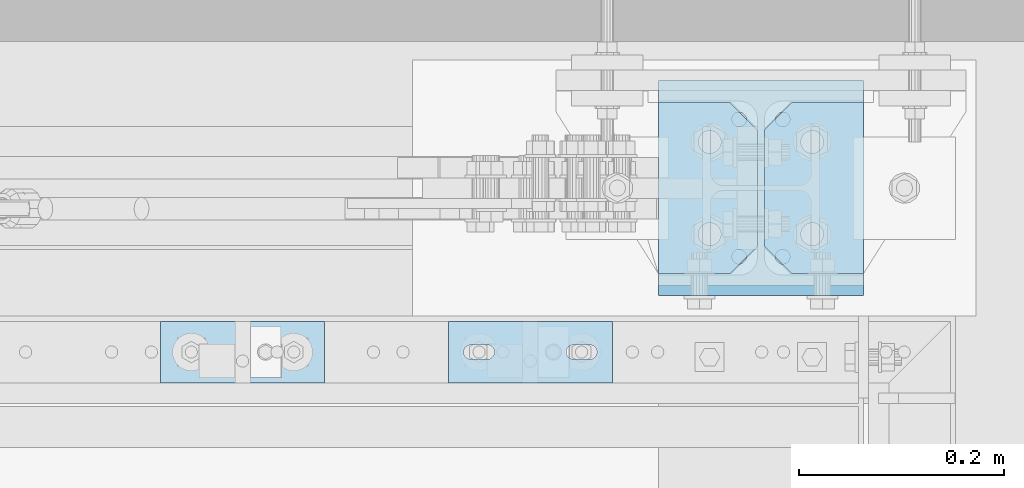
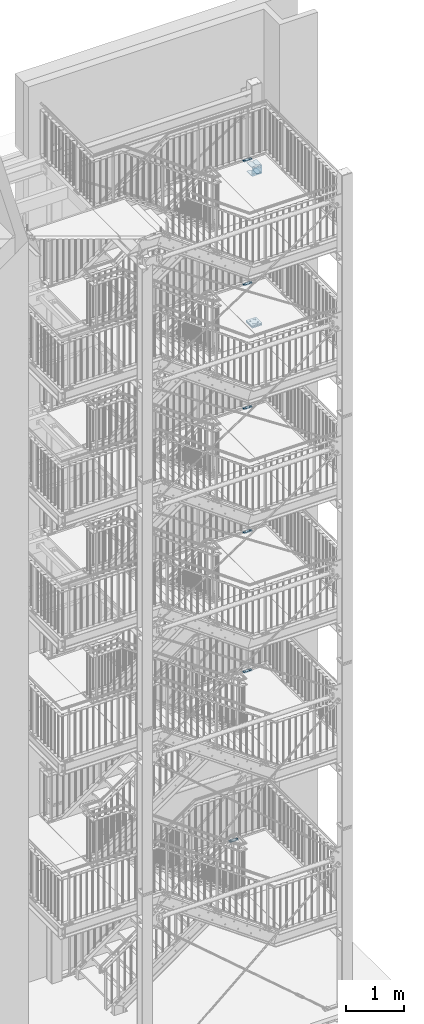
# One storey, part 213 of 825: 13 plates, 44 openings.
"""IFC2X3 building model written with IfcOpenShell, lengths in millimetres."""

from ifc_helpers import new_model, entity, si_unit, converted_unit, point, frame, frame_2d, origin, origin_with_axes, origin_2d_with_axis, place, context, project, spatial, polyline, circle_curve, line_curve, trimmed, segment, composite_curve, circle, outline, extrude, material, layer, layer_set, element, save


model = new_model("IFC2X3")

# Units and contexts
model_context = context("Model", 3, precision=1e-09, world=origin_with_axes())
ifc_project = project(units=[si_unit("LENGTHUNIT", "METRE", prefix="MILLI"), si_unit("AREAUNIT", "SQUARE_METRE"), si_unit("VOLUMEUNIT", "CUBIC_METRE"), converted_unit("PLANEANGLEUNIT", "DEGREE", entity("IfcPlaneAngleMeasure", 0.01745329), si_unit("PLANEANGLEUNIT", "RADIAN"), dimensions=[0, 0, 0, 0, 0, 0, 0])], contexts=[model_context])

# Site, building, storey
site_placement = place(None, origin_with_axes())
site = spatial("IfcSite", under=ifc_project, at=site_placement, Name="Cnopf'sche Kinderklinik", CompositionType="ELEMENT")
building_placement = place(site_placement, origin_with_axes())
building = spatial("IfcBuilding", under=site, at=building_placement, Name="Struktur 1", CompositionType="ELEMENT")
storey_placement = place(building_placement, origin_with_axes())
storey = spatial("IfcBuildingStorey", under=building, at=storey_placement, Name="Default Storey", CompositionType="ELEMENT", Elevation=0.0)

# Plate, openings
ifc_material = material(Name="S235JR")
ifc_layer_1 = layer(ifc_material, 20.0)
ifc_layer_set_1 = layer_set([ifc_layer_1], Name="S235JR")
plate_1_placement = place(None, frame((8440.944225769, 7386.736971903, 2181.0526312), z_axis=(0.0, 0.0, 1.0), x_axis=(-1.0, 0.0, 0.0)))
plate_1 = element("IfcPlate", 1, at=plate_1_placement, inside=storey, material=ifc_layer_set_1, Name="Plate#503", ObjectType="Plate#503", context=model_context, shape_type="SweptSolid", body=[
    extrude(outline(polyline([(0.0, 0.0), (160.0, 0.0), (160.0, 60.0), (0.0, 60.0), (0.0, 0.0)])), origin_with_axes(), (0.0, 0.0, 1.0), 20.0),
])
opening_1_placement = place(plate_1_placement, frame((38.0, 37.001, 20.5), z_axis=(0.0, 0.0, 1.0), x_axis=(-1.0, 0.0, 0.0)))
element("IfcOpeningElement", 2, at=opening_1_placement, cuts=plate_1, ObjectType="Opening", context=model_context, shape_type="SweptSolid", body=[
    extrude(outline(composite_curve([segment(trimmed(line_curve((0.0, 0.0), (1.0, 0.0), 16.0), [point((0.0, 0.0))], [point((16.0, 0.0))], True, "CARTESIAN"), True, "CONTINUOUS"), segment(trimmed(circle_curve(frame_2d((16.0, 7.001), x_axis=(1.0, 0.0)), 7.001), [point((16.0, 0.0))], [point((16.0, 14.002))], True, "CARTESIAN"), True, "CONTINUOUS"), segment(trimmed(line_curve((16.0, 14.002), (-1.0, 0.0), 16.0), [point((16.0, 14.002))], [point((0.0, 14.002))], True, "CARTESIAN"), True, "CONTINUOUS"), segment(trimmed(circle_curve(frame_2d((0.0, 7.001), x_axis=(1.0, 0.0)), 7.001), [point((0.0, 14.002))], [point((0.0, 0.0))], True, "CARTESIAN"), True, "CONTINUOUS")], self_intersect=False)), origin(), (0.0, 0.0, -1.0), 21.0),
])
opening_2_placement = place(plate_1_placement, frame((138.0, 37.001, 20.5), z_axis=(0.0, 0.0, 1.0), x_axis=(-1.0, 0.0, 0.0)))
element("IfcOpeningElement", 3, at=opening_2_placement, cuts=plate_1, ObjectType="Opening", context=model_context, shape_type="SweptSolid", body=[
    extrude(outline(composite_curve([segment(trimmed(line_curve((0.0, 0.0), (1.0, 0.0), 16.0), [point((0.0, 0.0))], [point((16.0, 0.0))], True, "CARTESIAN"), True, "CONTINUOUS"), segment(trimmed(circle_curve(frame_2d((16.0, 7.001), x_axis=(1.0, 0.0)), 7.001), [point((16.0, 0.0))], [point((16.0, 14.002))], True, "CARTESIAN"), True, "CONTINUOUS"), segment(trimmed(line_curve((16.0, 14.002), (-1.0, 0.0), 16.0), [point((16.0, 14.002))], [point((0.0, 14.002))], True, "CARTESIAN"), True, "CONTINUOUS"), segment(trimmed(circle_curve(frame_2d((0.0, 7.001), x_axis=(1.0, 0.0)), 7.001), [point((0.0, 14.002))], [point((0.0, 0.0))], True, "CARTESIAN"), True, "CONTINUOUS")], self_intersect=False)), origin(), (0.0, 0.0, -1.0), 21.0),
])

plate_2_placement = place(None, frame((8721.713974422, 7386.736971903, 5674.8947367), z_axis=(0.0, 0.0, 1.0), x_axis=(-1.0, 0.0, 0.0)))
plate_2 = element("IfcPlate", 4, at=plate_2_placement, inside=storey, material=ifc_layer_set_1, Name="Plate#504", ObjectType="Plate#504", context=model_context, shape_type="SweptSolid", body=[
    extrude(outline(polyline([(0.0, 0.0), (160.0, 0.0), (160.0, 60.0), (0.0, 60.0), (0.0, 0.0)])), origin_with_axes(), (0.0, 0.0, 1.0), 20.0),
])
opening_3_placement = place(plate_2_placement, frame((38.0, 37.001, 20.5), z_axis=(0.0, 0.0, 1.0), x_axis=(-1.0, 0.0, 0.0)))
element("IfcOpeningElement", 5, at=opening_3_placement, cuts=plate_2, ObjectType="Opening", context=model_context, shape_type="SweptSolid", body=[
    extrude(outline(composite_curve([segment(trimmed(line_curve((0.0, 0.0), (1.0, 0.0), 16.0), [point((0.0, 0.0))], [point((16.0, 0.0))], True, "CARTESIAN"), True, "CONTINUOUS"), segment(trimmed(circle_curve(frame_2d((16.0, 7.001), x_axis=(1.0, 0.0)), 7.001), [point((16.0, 0.0))], [point((16.0, 14.002))], True, "CARTESIAN"), True, "CONTINUOUS"), segment(trimmed(line_curve((16.0, 14.002), (-1.0, 0.0), 16.0), [point((16.0, 14.002))], [point((0.0, 14.002))], True, "CARTESIAN"), True, "CONTINUOUS"), segment(trimmed(circle_curve(frame_2d((0.0, 7.001), x_axis=(1.0, 0.0)), 7.001), [point((0.0, 14.002))], [point((0.0, 0.0))], True, "CARTESIAN"), True, "CONTINUOUS")], self_intersect=False)), origin(), (0.0, 0.0, -1.0), 21.0),
])
opening_4_placement = place(plate_2_placement, frame((138.0, 37.001, 20.5), z_axis=(0.0, 0.0, 1.0), x_axis=(-1.0, 0.0, 0.0)))
element("IfcOpeningElement", 6, at=opening_4_placement, cuts=plate_2, ObjectType="Opening", context=model_context, shape_type="SweptSolid", body=[
    extrude(outline(composite_curve([segment(trimmed(line_curve((0.0, 0.0), (1.0, 0.0), 16.0), [point((0.0, 0.0))], [point((16.0, 0.0))], True, "CARTESIAN"), True, "CONTINUOUS"), segment(trimmed(circle_curve(frame_2d((16.0, 7.001), x_axis=(1.0, 0.0)), 7.001), [point((16.0, 0.0))], [point((16.0, 14.002))], True, "CARTESIAN"), True, "CONTINUOUS"), segment(trimmed(line_curve((16.0, 14.002), (-1.0, 0.0), 16.0), [point((16.0, 14.002))], [point((0.0, 14.002))], True, "CARTESIAN"), True, "CONTINUOUS"), segment(trimmed(circle_curve(frame_2d((0.0, 7.001), x_axis=(1.0, 0.0)), 7.001), [point((0.0, 14.002))], [point((0.0, 0.0))], True, "CARTESIAN"), True, "CONTINUOUS")], self_intersect=False)), origin(), (0.0, 0.0, -1.0), 21.0),
])

plate_3_placement = place(None, frame((8721.713974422, 7386.736971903, 8636.0), z_axis=(0.0, 0.0, 1.0), x_axis=(-1.0, 0.0, 0.0)))
plate_3 = element("IfcPlate", 7, at=plate_3_placement, inside=storey, material=ifc_layer_set_1, Name="Plate#504", ObjectType="Plate#504", context=model_context, shape_type="SweptSolid", body=[
    extrude(outline(polyline([(0.0, 0.0), (160.0, 0.0), (160.0, 60.0), (0.0, 60.0), (0.0, 0.0)])), origin_with_axes(), (0.0, 0.0, 1.0), 20.0),
])
opening_5_placement = place(plate_3_placement, frame((38.0, 37.001, 20.5), z_axis=(0.0, 0.0, 1.0), x_axis=(-1.0, 0.0, 0.0)))
element("IfcOpeningElement", 8, at=opening_5_placement, cuts=plate_3, ObjectType="Opening", context=model_context, shape_type="SweptSolid", body=[
    extrude(outline(composite_curve([segment(trimmed(line_curve((0.0, 0.0), (1.0, 0.0), 16.0), [point((0.0, 0.0))], [point((16.0, 0.0))], True, "CARTESIAN"), True, "CONTINUOUS"), segment(trimmed(circle_curve(frame_2d((16.0, 7.001), x_axis=(1.0, 0.0)), 7.001), [point((16.0, 0.0))], [point((16.0, 14.002))], True, "CARTESIAN"), True, "CONTINUOUS"), segment(trimmed(line_curve((16.0, 14.002), (-1.0, 0.0), 16.0), [point((16.0, 14.002))], [point((0.0, 14.002))], True, "CARTESIAN"), True, "CONTINUOUS"), segment(trimmed(circle_curve(frame_2d((0.0, 7.001), x_axis=(1.0, 0.0)), 7.001), [point((0.0, 14.002))], [point((0.0, 0.0))], True, "CARTESIAN"), True, "CONTINUOUS")], self_intersect=False)), origin(), (0.0, 0.0, -1.0), 21.0),
])
opening_6_placement = place(plate_3_placement, frame((138.0, 37.001, 20.5), z_axis=(0.0, 0.0, 1.0), x_axis=(-1.0, 0.0, 0.0)))
element("IfcOpeningElement", 9, at=opening_6_placement, cuts=plate_3, ObjectType="Opening", context=model_context, shape_type="SweptSolid", body=[
    extrude(outline(composite_curve([segment(trimmed(line_curve((0.0, 0.0), (1.0, 0.0), 16.0), [point((0.0, 0.0))], [point((16.0, 0.0))], True, "CARTESIAN"), True, "CONTINUOUS"), segment(trimmed(circle_curve(frame_2d((16.0, 7.001), x_axis=(1.0, 0.0)), 7.001), [point((16.0, 0.0))], [point((16.0, 14.002))], True, "CARTESIAN"), True, "CONTINUOUS"), segment(trimmed(line_curve((16.0, 14.002), (-1.0, 0.0), 16.0), [point((16.0, 14.002))], [point((0.0, 14.002))], True, "CARTESIAN"), True, "CONTINUOUS"), segment(trimmed(circle_curve(frame_2d((0.0, 7.001), x_axis=(1.0, 0.0)), 7.001), [point((0.0, 14.002))], [point((0.0, 0.0))], True, "CARTESIAN"), True, "CONTINUOUS")], self_intersect=False)), origin(), (0.0, 0.0, -1.0), 21.0),
])

plate_4_placement = place(None, frame((8721.713974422, 7386.736971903, 11265.5000003), z_axis=(0.0, 0.0, 1.0), x_axis=(-1.0, 0.0, 0.0)))
plate_4 = element("IfcPlate", 10, at=plate_4_placement, inside=storey, material=ifc_layer_set_1, Name="Plate#504", ObjectType="Plate#504", context=model_context, shape_type="SweptSolid", body=[
    extrude(outline(polyline([(0.0, 0.0), (160.0, 0.0), (160.0, 60.0), (0.0, 60.0), (0.0, 0.0)])), origin_with_axes(), (0.0, 0.0, 1.0), 20.0),
])
opening_7_placement = place(plate_4_placement, frame((38.0, 37.001, 20.5), z_axis=(0.0, 0.0, 1.0), x_axis=(-1.0, 0.0, 0.0)))
element("IfcOpeningElement", 11, at=opening_7_placement, cuts=plate_4, ObjectType="Opening", context=model_context, shape_type="SweptSolid", body=[
    extrude(outline(composite_curve([segment(trimmed(line_curve((0.0, 0.0), (1.0, 0.0), 16.0), [point((0.0, 0.0))], [point((16.0, 0.0))], True, "CARTESIAN"), True, "CONTINUOUS"), segment(trimmed(circle_curve(frame_2d((16.0, 7.001), x_axis=(1.0, 0.0)), 7.001), [point((16.0, 0.0))], [point((16.0, 14.002))], True, "CARTESIAN"), True, "CONTINUOUS"), segment(trimmed(line_curve((16.0, 14.002), (-1.0, 0.0), 16.0), [point((16.0, 14.002))], [point((0.0, 14.002))], True, "CARTESIAN"), True, "CONTINUOUS"), segment(trimmed(circle_curve(frame_2d((0.0, 7.001), x_axis=(1.0, 0.0)), 7.001), [point((0.0, 14.002))], [point((0.0, 0.0))], True, "CARTESIAN"), True, "CONTINUOUS")], self_intersect=False)), origin(), (0.0, 0.0, -1.0), 21.0),
])
opening_8_placement = place(plate_4_placement, frame((138.0, 37.001, 20.5), z_axis=(0.0, 0.0, 1.0), x_axis=(-1.0, 0.0, 0.0)))
element("IfcOpeningElement", 12, at=opening_8_placement, cuts=plate_4, ObjectType="Opening", context=model_context, shape_type="SweptSolid", body=[
    extrude(outline(composite_curve([segment(trimmed(line_curve((0.0, 0.0), (1.0, 0.0), 16.0), [point((0.0, 0.0))], [point((16.0, 0.0))], True, "CARTESIAN"), True, "CONTINUOUS"), segment(trimmed(circle_curve(frame_2d((16.0, 7.001), x_axis=(1.0, 0.0)), 7.001), [point((16.0, 0.0))], [point((16.0, 14.002))], True, "CARTESIAN"), True, "CONTINUOUS"), segment(trimmed(line_curve((16.0, 14.002), (-1.0, 0.0), 16.0), [point((16.0, 14.002))], [point((0.0, 14.002))], True, "CARTESIAN"), True, "CONTINUOUS"), segment(trimmed(circle_curve(frame_2d((0.0, 7.001), x_axis=(1.0, 0.0)), 7.001), [point((0.0, 14.002))], [point((0.0, 0.0))], True, "CARTESIAN"), True, "CONTINUOUS")], self_intersect=False)), origin(), (0.0, 0.0, -1.0), 21.0),
])

plate_5_placement = place(None, frame((8721.713974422, 7386.736971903, 13896.5000001), z_axis=(0.0, 0.0, 1.0), x_axis=(-1.0, 0.0, 0.0)))
plate_5 = element("IfcPlate", 13, at=plate_5_placement, inside=storey, material=ifc_layer_set_1, Name="Plate#504", ObjectType="Plate#504", context=model_context, shape_type="SweptSolid", body=[
    extrude(outline(polyline([(0.0, 0.0), (160.0, 0.0), (160.0, 60.0), (0.0, 60.0), (0.0, 0.0)])), origin_with_axes(), (0.0, 0.0, 1.0), 20.0),
])
opening_9_placement = place(plate_5_placement, frame((38.0, 37.001, 20.5), z_axis=(0.0, 0.0, 1.0), x_axis=(-1.0, 0.0, 0.0)))
element("IfcOpeningElement", 14, at=opening_9_placement, cuts=plate_5, ObjectType="Opening", context=model_context, shape_type="SweptSolid", body=[
    extrude(outline(composite_curve([segment(trimmed(line_curve((0.0, 0.0), (1.0, 0.0), 16.0), [point((0.0, 0.0))], [point((16.0, 0.0))], True, "CARTESIAN"), True, "CONTINUOUS"), segment(trimmed(circle_curve(frame_2d((16.0, 7.001), x_axis=(1.0, 0.0)), 7.001), [point((16.0, 0.0))], [point((16.0, 14.002))], True, "CARTESIAN"), True, "CONTINUOUS"), segment(trimmed(line_curve((16.0, 14.002), (-1.0, 0.0), 16.0), [point((16.0, 14.002))], [point((0.0, 14.002))], True, "CARTESIAN"), True, "CONTINUOUS"), segment(trimmed(circle_curve(frame_2d((0.0, 7.001), x_axis=(1.0, 0.0)), 7.001), [point((0.0, 14.002))], [point((0.0, 0.0))], True, "CARTESIAN"), True, "CONTINUOUS")], self_intersect=False)), origin(), (0.0, 0.0, -1.0), 21.0),
])
opening_10_placement = place(plate_5_placement, frame((138.0, 37.001, 20.5), z_axis=(0.0, 0.0, 1.0), x_axis=(-1.0, 0.0, 0.0)))
element("IfcOpeningElement", 15, at=opening_10_placement, cuts=plate_5, ObjectType="Opening", context=model_context, shape_type="SweptSolid", body=[
    extrude(outline(composite_curve([segment(trimmed(line_curve((0.0, 0.0), (1.0, 0.0), 16.0), [point((0.0, 0.0))], [point((16.0, 0.0))], True, "CARTESIAN"), True, "CONTINUOUS"), segment(trimmed(circle_curve(frame_2d((16.0, 7.001), x_axis=(1.0, 0.0)), 7.001), [point((16.0, 0.0))], [point((16.0, 14.002))], True, "CARTESIAN"), True, "CONTINUOUS"), segment(trimmed(line_curve((16.0, 14.002), (-1.0, 0.0), 16.0), [point((16.0, 14.002))], [point((0.0, 14.002))], True, "CARTESIAN"), True, "CONTINUOUS"), segment(trimmed(circle_curve(frame_2d((0.0, 7.001), x_axis=(1.0, 0.0)), 7.001), [point((0.0, 14.002))], [point((0.0, 0.0))], True, "CARTESIAN"), True, "CONTINUOUS")], self_intersect=False)), origin(), (0.0, 0.0, -1.0), 21.0),
])

plate_6_placement = place(None, frame((8721.713974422, 7386.736971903, 16524.0000003), z_axis=(0.0, 0.0, 1.0), x_axis=(-1.0, 0.0, 0.0)))
plate_6 = element("IfcPlate", 16, at=plate_6_placement, inside=storey, material=ifc_layer_set_1, Name="Plate#504", ObjectType="Plate#504", context=model_context, shape_type="SweptSolid", body=[
    extrude(outline(polyline([(0.0, 0.0), (160.0, 0.0), (160.0, 60.0), (0.0, 60.0), (0.0, 0.0)])), origin_with_axes(), (0.0, 0.0, 1.0), 20.0),
])
opening_11_placement = place(plate_6_placement, frame((38.0, 37.001, 20.5), z_axis=(0.0, 0.0, 1.0), x_axis=(-1.0, 0.0, 0.0)))
element("IfcOpeningElement", 17, at=opening_11_placement, cuts=plate_6, ObjectType="Opening", context=model_context, shape_type="SweptSolid", body=[
    extrude(outline(composite_curve([segment(trimmed(line_curve((0.0, 0.0), (1.0, 0.0), 16.0), [point((0.0, 0.0))], [point((16.0, 0.0))], True, "CARTESIAN"), True, "CONTINUOUS"), segment(trimmed(circle_curve(frame_2d((16.0, 7.001), x_axis=(1.0, 0.0)), 7.001), [point((16.0, 0.0))], [point((16.0, 14.002))], True, "CARTESIAN"), True, "CONTINUOUS"), segment(trimmed(line_curve((16.0, 14.002), (-1.0, 0.0), 16.0), [point((16.0, 14.002))], [point((0.0, 14.002))], True, "CARTESIAN"), True, "CONTINUOUS"), segment(trimmed(circle_curve(frame_2d((0.0, 7.001), x_axis=(1.0, 0.0)), 7.001), [point((0.0, 14.002))], [point((0.0, 0.0))], True, "CARTESIAN"), True, "CONTINUOUS")], self_intersect=False)), origin(), (0.0, 0.0, -1.0), 21.0),
])
opening_12_placement = place(plate_6_placement, frame((138.0, 37.001, 20.5), z_axis=(0.0, 0.0, 1.0), x_axis=(-1.0, 0.0, 0.0)))
element("IfcOpeningElement", 18, at=opening_12_placement, cuts=plate_6, ObjectType="Opening", context=model_context, shape_type="SweptSolid", body=[
    extrude(outline(composite_curve([segment(trimmed(line_curve((0.0, 0.0), (1.0, 0.0), 16.0), [point((0.0, 0.0))], [point((16.0, 0.0))], True, "CARTESIAN"), True, "CONTINUOUS"), segment(trimmed(circle_curve(frame_2d((16.0, 7.001), x_axis=(1.0, 0.0)), 7.001), [point((16.0, 0.0))], [point((16.0, 14.002))], True, "CARTESIAN"), True, "CONTINUOUS"), segment(trimmed(line_curve((16.0, 14.002), (-1.0, 0.0), 16.0), [point((16.0, 14.002))], [point((0.0, 14.002))], True, "CARTESIAN"), True, "CONTINUOUS"), segment(trimmed(circle_curve(frame_2d((0.0, 7.001), x_axis=(1.0, 0.0)), 7.001), [point((0.0, 14.002))], [point((0.0, 0.0))], True, "CARTESIAN"), True, "CONTINUOUS")], self_intersect=False)), origin(), (0.0, 0.0, -1.0), 21.0),
])

ifc_layer_2 = layer(ifc_material, 25.0)
ifc_layer_set_2 = layer_set([ifc_layer_2], Name="S235JR")
plate_7_placement = place(None, frame((8866.713402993, 7516.736971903, 12900.0), z_axis=(0.0, 0.0, -1.0), x_axis=(0.0, -1.0, 0.0)))
plate_7 = element("IfcPlate", 19, at=plate_7_placement, inside=storey, material=ifc_layer_set_2, Name="Endplate#1", ObjectType="Endplate#1", context=model_context, shape_type="SweptSolid", body=[
    extrude(outline(polyline([(-105.0, -100.0), (105.0, -100.0), (105.0, 100.0), (-105.0, 100.0), (-105.0, -100.0)])), origin_with_axes(), (0.0, 0.0, 1.0), 25.0),
])
opening_13_placement = place(plate_7_placement, frame((67.0, 21.25, -0.5), z_axis=(0.0, 0.0, 1.0), x_axis=(1.0, 0.0, 0.0)))
element("IfcOpeningElement", 20, at=opening_13_placement, cuts=plate_7, ObjectType="Opening", context=model_context, shape_type="SweptSolid", body=[
    extrude(circle(Radius=7.001, at=origin_2d_with_axis()), origin(), (0.0, 0.0, 1.0), 26.0),
])
opening_14_placement = place(plate_7_placement, frame((-67.0, 21.25, -0.5), z_axis=(0.0, 0.0, 1.0), x_axis=(1.0, 0.0, 0.0)))
element("IfcOpeningElement", 21, at=opening_14_placement, cuts=plate_7, ObjectType="Opening", context=model_context, shape_type="SweptSolid", body=[
    extrude(circle(Radius=7.001, at=origin_2d_with_axis()), origin(), (0.0, 0.0, 1.0), 26.0),
])
opening_15_placement = place(plate_7_placement, frame((-67.0, -21.25, -0.5), z_axis=(0.0, 0.0, 1.0), x_axis=(1.0, 0.0, 0.0)))
element("IfcOpeningElement", 22, at=opening_15_placement, cuts=plate_7, ObjectType="Opening", context=model_context, shape_type="SweptSolid", body=[
    extrude(circle(Radius=7.001, at=origin_2d_with_axis()), origin(), (0.0, 0.0, 1.0), 26.0),
])
opening_16_placement = place(plate_7_placement, frame((67.0, -21.25, -0.5), z_axis=(0.0, 0.0, 1.0), x_axis=(1.0, 0.0, 0.0)))
element("IfcOpeningElement", 23, at=opening_16_placement, cuts=plate_7, ObjectType="Opening", context=model_context, shape_type="SweptSolid", body=[
    extrude(circle(Radius=7.001, at=origin_2d_with_axis()), origin(), (0.0, 0.0, 1.0), 26.0),
])
opening_17_placement = place(plate_7_placement, frame((45.0, -38.999, 25.5), z_axis=(0.0, 0.0, 1.0), x_axis=(1.0, 0.0, 0.0)))
element("IfcOpeningElement", 24, at=opening_17_placement, cuts=plate_7, ObjectType="Opening", context=model_context, shape_type="SweptSolid", body=[
    extrude(circle(Radius=11.001, at=frame_2d((0.0, -11.001), x_axis=(1.0, 0.0))), origin(), (0.0, 0.0, -1.0), 26.0),
])
opening_18_placement = place(plate_7_placement, frame((-45.0, -38.999, 25.5), z_axis=(0.0, 0.0, 1.0), x_axis=(1.0, 0.0, 0.0)))
element("IfcOpeningElement", 25, at=opening_18_placement, cuts=plate_7, ObjectType="Opening", context=model_context, shape_type="SweptSolid", body=[
    extrude(circle(Radius=11.001, at=frame_2d((0.0, -11.001), x_axis=(1.0, 0.0))), origin(), (0.0, 0.0, -1.0), 26.0),
])
opening_19_placement = place(plate_7_placement, frame((45.0, 61.001, 25.5), z_axis=(0.0, 0.0, 1.0), x_axis=(1.0, 0.0, 0.0)))
element("IfcOpeningElement", 26, at=opening_19_placement, cuts=plate_7, ObjectType="Opening", context=model_context, shape_type="SweptSolid", body=[
    extrude(circle(Radius=11.001, at=frame_2d((0.0, -11.001), x_axis=(1.0, 0.0))), origin(), (0.0, 0.0, -1.0), 26.0),
])
opening_20_placement = place(plate_7_placement, frame((-45.0, 61.001, 25.5), z_axis=(0.0, 0.0, 1.0), x_axis=(1.0, 0.0, 0.0)))
element("IfcOpeningElement", 27, at=opening_20_placement, cuts=plate_7, ObjectType="Opening", context=model_context, shape_type="SweptSolid", body=[
    extrude(circle(Radius=11.001, at=frame_2d((0.0, -11.001), x_axis=(1.0, 0.0))), origin(), (0.0, 0.0, -1.0), 26.0),
])

plate_8_placement = place(None, frame((8866.713402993, 7516.736971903, 12925.0), z_axis=(0.0, 0.0, -1.0), x_axis=(0.0, -1.0, 0.0)))
plate_8 = element("IfcPlate", 28, at=plate_8_placement, inside=storey, material=ifc_layer_set_2, Name="Endplate#2", ObjectType="Endplate#2", context=model_context, shape_type="SweptSolid", body=[
    extrude(outline(polyline([(-105.0, -100.0), (105.0, -100.0), (105.0, 100.0), (-105.0, 100.0), (-105.0, -100.0)])), origin_with_axes(), (0.0, 0.0, 1.0), 25.0),
])
opening_21_placement = place(plate_8_placement, frame((67.0, 21.25, 25.5), z_axis=(0.0, 0.0, -1.0), x_axis=(-1.0, 0.0, 0.0)))
element("IfcOpeningElement", 29, at=opening_21_placement, cuts=plate_8, ObjectType="Opening", context=model_context, shape_type="SweptSolid", body=[
    extrude(circle(Radius=7.001, at=origin_2d_with_axis()), origin(), (0.0, 0.0, 1.0), 26.0),
])
opening_22_placement = place(plate_8_placement, frame((-67.0, 21.25, 25.5), z_axis=(0.0, 0.0, -1.0), x_axis=(-1.0, 0.0, 0.0)))
element("IfcOpeningElement", 30, at=opening_22_placement, cuts=plate_8, ObjectType="Opening", context=model_context, shape_type="SweptSolid", body=[
    extrude(circle(Radius=7.001, at=origin_2d_with_axis()), origin(), (0.0, 0.0, 1.0), 26.0),
])
opening_23_placement = place(plate_8_placement, frame((-67.0, -21.25, 25.5), z_axis=(0.0, 0.0, -1.0), x_axis=(-1.0, 0.0, 0.0)))
element("IfcOpeningElement", 31, at=opening_23_placement, cuts=plate_8, ObjectType="Opening", context=model_context, shape_type="SweptSolid", body=[
    extrude(circle(Radius=7.001, at=origin_2d_with_axis()), origin(), (0.0, 0.0, 1.0), 26.0),
])
opening_24_placement = place(plate_8_placement, frame((67.0, -21.25, 25.5), z_axis=(0.0, 0.0, -1.0), x_axis=(-1.0, 0.0, 0.0)))
element("IfcOpeningElement", 32, at=opening_24_placement, cuts=plate_8, ObjectType="Opening", context=model_context, shape_type="SweptSolid", body=[
    extrude(circle(Radius=7.001, at=origin_2d_with_axis()), origin(), (0.0, 0.0, 1.0), 26.0),
])
opening_25_placement = place(plate_8_placement, frame((45.0, 61.001, 25.5), z_axis=(0.0, 0.0, 1.0), x_axis=(1.0, 0.0, 0.0)))
element("IfcOpeningElement", 33, at=opening_25_placement, cuts=plate_8, ObjectType="Opening", context=model_context, shape_type="SweptSolid", body=[
    extrude(circle(Radius=11.001, at=frame_2d((0.0, -11.001), x_axis=(1.0, 0.0))), origin(), (0.0, 0.0, -1.0), 26.0),
])
opening_26_placement = place(plate_8_placement, frame((-45.0, 61.001, 25.5), z_axis=(0.0, 0.0, 1.0), x_axis=(1.0, 0.0, 0.0)))
element("IfcOpeningElement", 34, at=opening_26_placement, cuts=plate_8, ObjectType="Opening", context=model_context, shape_type="SweptSolid", body=[
    extrude(circle(Radius=11.001, at=frame_2d((0.0, -11.001), x_axis=(1.0, 0.0))), origin(), (0.0, 0.0, -1.0), 26.0),
])
opening_27_placement = place(plate_8_placement, frame((45.0, -38.999, 25.5), z_axis=(0.0, 0.0, 1.0), x_axis=(1.0, 0.0, 0.0)))
element("IfcOpeningElement", 35, at=opening_27_placement, cuts=plate_8, ObjectType="Opening", context=model_context, shape_type="SweptSolid", body=[
    extrude(circle(Radius=11.001, at=frame_2d((0.0, -11.001), x_axis=(1.0, 0.0))), origin(), (0.0, 0.0, -1.0), 26.0),
])
opening_28_placement = place(plate_8_placement, frame((-45.0, -38.999, 25.5), z_axis=(0.0, 0.0, 1.0), x_axis=(1.0, 0.0, 0.0)))
element("IfcOpeningElement", 36, at=opening_28_placement, cuts=plate_8, ObjectType="Opening", context=model_context, shape_type="SweptSolid", body=[
    extrude(circle(Radius=11.001, at=frame_2d((0.0, -11.001), x_axis=(1.0, 0.0))), origin(), (0.0, 0.0, -1.0), 26.0),
])

ifc_layer_3 = layer(ifc_material, 10.0)
ifc_layer_set_3 = layer_set([ifc_layer_3], Name="S235JR")
plate_9_placement = place(None, frame((8866.713402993, 7411.736971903, 16189.0000003), z_axis=(0.0, 1.0, 0.0), x_axis=(0.0, 0.0, -1.0)))
plate_9 = element("IfcPlate", 37, at=plate_9_placement, inside=storey, material=ifc_layer_set_3, Name="Endplate", ObjectType="Endplate", context=model_context, shape_type="SweptSolid", body=[
    extrude(outline(polyline([(-90.0, -100.0), (90.0, -100.0), (90.0, 100.0), (-90.0, 100.0), (-90.0, -100.0)])), origin_with_axes(), (0.0, 0.0, 1.0), 10.0),
])
opening_29_placement = place(plate_9_placement, frame((-67.0, 21.25, 10.5), z_axis=(0.0, 0.0, -1.0), x_axis=(-1.0, 0.0, 0.0)))
element("IfcOpeningElement", 38, at=opening_29_placement, cuts=plate_9, ObjectType="Opening", context=model_context, shape_type="SweptSolid", body=[
    extrude(circle(Radius=6.001, at=origin_2d_with_axis()), origin(), (0.0, 0.0, 1.0), 11.0),
])
opening_30_placement = place(plate_9_placement, frame((67.0, 21.25, 10.5), z_axis=(0.0, 0.0, -1.0), x_axis=(-1.0, 0.0, 0.0)))
element("IfcOpeningElement", 39, at=opening_30_placement, cuts=plate_9, ObjectType="Opening", context=model_context, shape_type="SweptSolid", body=[
    extrude(circle(Radius=6.001, at=origin_2d_with_axis()), origin(), (0.0, 0.0, 1.0), 11.0),
])
opening_31_placement = place(plate_9_placement, frame((67.0, -21.25, 10.5), z_axis=(0.0, 0.0, -1.0), x_axis=(-1.0, 0.0, 0.0)))
element("IfcOpeningElement", 40, at=opening_31_placement, cuts=plate_9, ObjectType="Opening", context=model_context, shape_type="SweptSolid", body=[
    extrude(circle(Radius=6.001, at=origin_2d_with_axis()), origin(), (0.0, 0.0, 1.0), 11.0),
])
opening_32_placement = place(plate_9_placement, frame((-67.0, -21.25, 10.5), z_axis=(0.0, 0.0, -1.0), x_axis=(-1.0, 0.0, 0.0)))
element("IfcOpeningElement", 41, at=opening_32_placement, cuts=plate_9, ObjectType="Opening", context=model_context, shape_type="SweptSolid", body=[
    extrude(circle(Radius=6.001, at=origin_2d_with_axis()), origin(), (0.0, 0.0, 1.0), 11.0),
])
opening_33_placement = place(plate_9_placement, frame((45.0, 60.0, 10.5), z_axis=(0.0, 0.0, -1.0), x_axis=(0.0, 1.0, 0.0)))
element("IfcOpeningElement", 42, at=opening_33_placement, cuts=plate_9, ObjectType="Opening", context=model_context, shape_type="SweptSolid", body=[
    extrude(circle(Radius=9.001, at=origin_2d_with_axis()), origin(), (0.0, 0.0, 1.0), 11.0),
])
opening_34_placement = place(plate_9_placement, frame((-45.0, -60.0, 10.5), z_axis=(0.0, 0.0, -1.0), x_axis=(0.0, -1.0, 0.0)))
element("IfcOpeningElement", 43, at=opening_34_placement, cuts=plate_9, ObjectType="Opening", context=model_context, shape_type="SweptSolid", body=[
    extrude(circle(Radius=9.001, at=origin_2d_with_axis()), origin(), (0.0, 0.0, 1.0), 11.0),
])
opening_35_placement = place(plate_9_placement, frame((-45.0, 60.0, 10.5), z_axis=(0.0, 0.0, -1.0), x_axis=(0.0, 1.0, 0.0)))
element("IfcOpeningElement", 44, at=opening_35_placement, cuts=plate_9, ObjectType="Opening", context=model_context, shape_type="SweptSolid", body=[
    extrude(circle(Radius=9.001, at=origin_2d_with_axis()), origin(), (0.0, 0.0, 1.0), 11.0),
])
opening_36_placement = place(plate_9_placement, frame((45.0, -60.0, 10.5), z_axis=(0.0, 0.0, -1.0), x_axis=(0.0, -1.0, 0.0)))
element("IfcOpeningElement", 45, at=opening_36_placement, cuts=plate_9, ObjectType="Opening", context=model_context, shape_type="SweptSolid", body=[
    extrude(circle(Radius=9.001, at=origin_2d_with_axis()), origin(), (0.0, 0.0, 1.0), 11.0),
])

plate_10_placement = place(None, frame((8766.713402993, 7433.236971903, 16274.0000003), z_axis=(0.0, 0.0, 1.0), x_axis=(1.0, 0.0, 0.0)))
plate_10 = element("IfcPlate", 46, at=plate_10_placement, inside=storey, material=ifc_layer_set_3, Name="Stiffener#1", ObjectType="Stiffener#1", context=model_context, shape_type="SweptSolid", body=[
    extrude(outline(polyline([(0.0, 0.0), (96.75, 0.0), (96.75, 167.0), (0.0, 167.0), (0.0, 0.0)])), origin_with_axes(), (0.0, 0.0, 1.0), 10.0),
])
opening_37_placement = place(plate_10_placement, frame((0.0, 0.0, -0.01), z_axis=(0.0, 0.0, 1.0), x_axis=(1.0, 0.0, 0.0)))
element("IfcOpeningElement", 47, at=opening_37_placement, cuts=plate_10, ObjectType="Opening", context=model_context, shape_type="SweptSolid", body=[
    extrude(outline(polyline([(96.75, 167.0), (69.75, 167.0), (96.75, 140.0), (96.75, 167.0)])), origin(), (0.0, 0.0, 1.0), 10.02),
])
opening_38_placement = place(plate_10_placement, frame((0.0, 0.0, -0.01), z_axis=(0.0, 0.0, 1.0), x_axis=(1.0, 0.0, 0.0)))
element("IfcOpeningElement", 48, at=opening_38_placement, cuts=plate_10, ObjectType="Opening", context=model_context, shape_type="SweptSolid", body=[
    extrude(outline(polyline([(96.75, 0.0), (96.75, 27.0), (69.75, 0.0), (96.75, 0.0)])), origin(), (0.0, 0.0, 1.0), 10.02),
])

plate_11_placement = place(None, frame((8869.963402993, 7433.236971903, 16274.0000003), z_axis=(0.0, 0.0, 1.0), x_axis=(1.0, 0.0, 0.0)))
plate_11 = element("IfcPlate", 49, at=plate_11_placement, inside=storey, material=ifc_layer_set_3, Name="Stiffener#2", ObjectType="Stiffener#2", context=model_context, shape_type="SweptSolid", body=[
    extrude(outline(polyline([(0.0, 0.0), (96.75, 0.0), (96.75, 167.0), (0.0, 167.0), (0.0, 0.0)])), origin_with_axes(), (0.0, 0.0, 1.0), 10.0),
])
opening_39_placement = place(plate_11_placement, frame((0.0, 0.0, -0.01), z_axis=(0.0, 0.0, 1.0), x_axis=(1.0, 0.0, 0.0)))
element("IfcOpeningElement", 50, at=opening_39_placement, cuts=plate_11, ObjectType="Opening", context=model_context, shape_type="SweptSolid", body=[
    extrude(outline(polyline([(0.0, 167.0), (0.0, 140.0), (27.0, 167.0), (0.0, 167.0)])), origin(), (0.0, 0.0, 1.0), 10.02),
])
opening_40_placement = place(plate_11_placement, frame((0.0, 0.0, -0.01), z_axis=(0.0, 0.0, 1.0), x_axis=(1.0, 0.0, 0.0)))
element("IfcOpeningElement", 51, at=opening_40_placement, cuts=plate_11, ObjectType="Opening", context=model_context, shape_type="SweptSolid", body=[
    extrude(outline(polyline([(0.0, 0.0), (27.0, 0.0), (0.0, 27.0), (0.0, 0.0)])), origin(), (0.0, 0.0, 1.0), 10.02),
])

plate_12_placement = place(None, frame((8863.463402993, 7433.236971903, 16104.0000003), z_axis=(0.0, 0.0, -1.0), x_axis=(-1.0, 0.0, 0.0)))
plate_12 = element("IfcPlate", 52, at=plate_12_placement, inside=storey, material=ifc_layer_set_3, Name="Stiffener#3", ObjectType="Stiffener#3", context=model_context, shape_type="SweptSolid", body=[
    extrude(outline(polyline([(0.0, 0.0), (96.75, 0.0), (96.75, 167.0), (0.0, 167.0), (0.0, 0.0)])), origin_with_axes(), (0.0, 0.0, 1.0), 10.0),
])
opening_41_placement = place(plate_12_placement, frame((0.0, 0.0, -0.01), z_axis=(0.0, 0.0, 1.0), x_axis=(1.0, 0.0, 0.0)))
element("IfcOpeningElement", 53, at=opening_41_placement, cuts=plate_12, ObjectType="Opening", context=model_context, shape_type="SweptSolid", body=[
    extrude(outline(polyline([(0.0, 167.0), (0.0, 140.0), (27.0, 167.0), (0.0, 167.0)])), origin(), (0.0, 0.0, 1.0), 10.02),
])
opening_42_placement = place(plate_12_placement, frame((0.0, 0.0, -0.01), z_axis=(0.0, 0.0, 1.0), x_axis=(1.0, 0.0, 0.0)))
element("IfcOpeningElement", 54, at=opening_42_placement, cuts=plate_12, ObjectType="Opening", context=model_context, shape_type="SweptSolid", body=[
    extrude(outline(polyline([(0.0, 0.0), (27.0, 0.0), (0.0, 27.0), (0.0, 0.0)])), origin(), (0.0, 0.0, 1.0), 10.02),
])

plate_13_placement = place(None, frame((8966.713402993, 7433.236971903, 16104.0000003), z_axis=(0.0, 0.0, -1.0), x_axis=(-1.0, 0.0, 0.0)))
plate_13 = element("IfcPlate", 55, at=plate_13_placement, inside=storey, material=ifc_layer_set_3, Name="Stiffener#4", ObjectType="Stiffener#4", context=model_context, shape_type="SweptSolid", body=[
    extrude(outline(polyline([(0.0, 0.0), (96.75, 0.0), (96.75, 167.0), (0.0, 167.0), (0.0, 0.0)])), origin_with_axes(), (0.0, 0.0, 1.0), 10.0),
])
opening_43_placement = place(plate_13_placement, frame((0.0, 0.0, -0.01), z_axis=(0.0, 0.0, 1.0), x_axis=(1.0, 0.0, 0.0)))
element("IfcOpeningElement", 56, at=opening_43_placement, cuts=plate_13, ObjectType="Opening", context=model_context, shape_type="SweptSolid", body=[
    extrude(outline(polyline([(96.75, 167.0), (69.75, 167.0), (96.75, 140.0), (96.75, 167.0)])), origin(), (0.0, 0.0, 1.0), 10.02),
])
opening_44_placement = place(plate_13_placement, frame((0.0, 0.0, -0.01), z_axis=(0.0, 0.0, 1.0), x_axis=(1.0, 0.0, 0.0)))
element("IfcOpeningElement", 57, at=opening_44_placement, cuts=plate_13, ObjectType="Opening", context=model_context, shape_type="SweptSolid", body=[
    extrude(outline(polyline([(96.75, 0.0), (96.75, 27.0), (69.75, 0.0), (96.75, 0.0)])), origin(), (0.0, 0.0, 1.0), 10.02),
])

save(model, "model.ifc")
